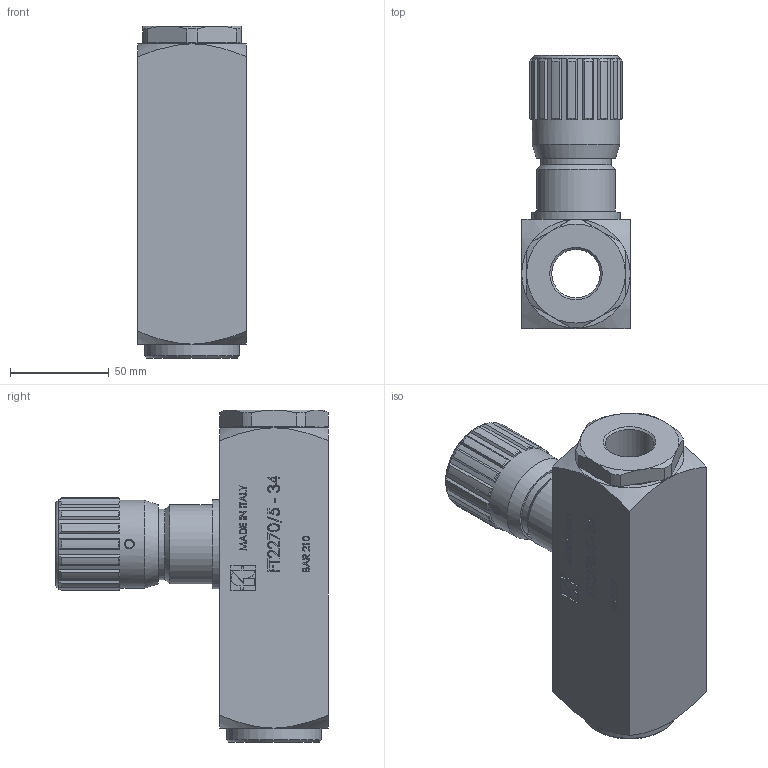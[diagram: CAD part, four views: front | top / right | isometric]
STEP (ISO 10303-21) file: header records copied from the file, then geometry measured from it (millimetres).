
FILE_DESCRIPTION (( 'STEP AP214' ), '1' );
FILE_NAME ('FT2270_5-34.STEP', '2015-03-31T15:23:40', ( 'cperuzzotti' ), ( 'Hewlett-Packard Company' ), 'SwSTEP 2.0', 'SolidWorks 2014', '' );
FILE_SCHEMA (( 'AUTOMOTIVE_DESIGN' ));
Length unit declared in the file: millimetre
Products named in the file (1): FT2270_5-34
Bounding box: 55 x 138 x 168 mm (x, y, z)
Surface area: 68917.9 mm2 (no closed solid volume)
Topology: 0 solids, 20 shells, 494 faces, 1940 edges, 1404 vertices
Faces by surface type: plane 318, cylinder 63, cone 56, bspline 56, torus 1
Full cylindrical faces by diameter (mm): 2.587 x1, 5 x1, 24.5 x1, 25.4 x1, 35.8 x1, 40 x1, 44.5 x1, 45 x2, 46 x1, 48 x1, 50 x1
Entity records: 30169 total; most frequent: CARTESIAN_POINT 9580, ORIENTED_EDGE 2914, DIRECTION 2742, EDGE_CURVE 1914, VERTEX_POINT 1399, LINE 1386, VECTOR 1386, AXIS2_PLACEMENT_3D 678
